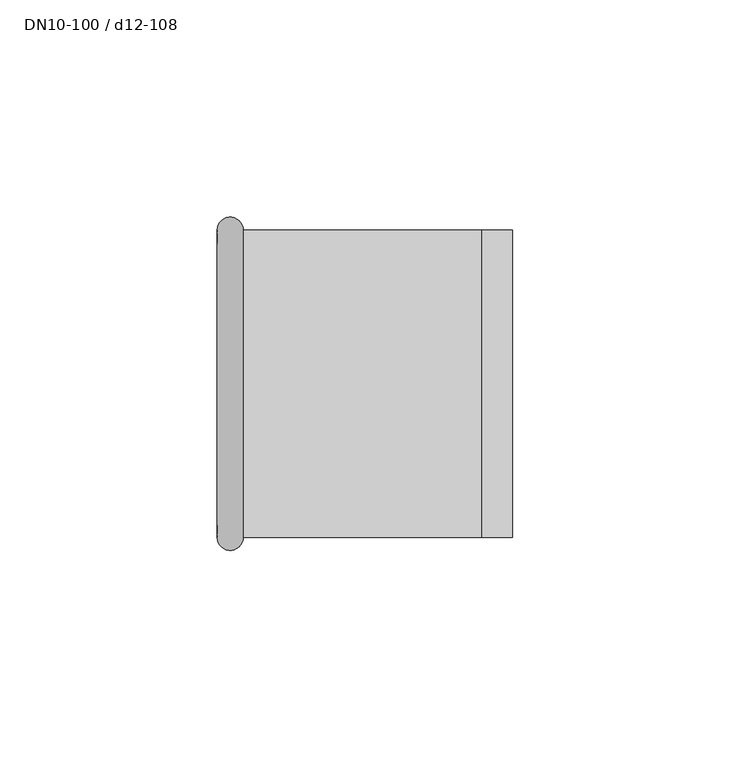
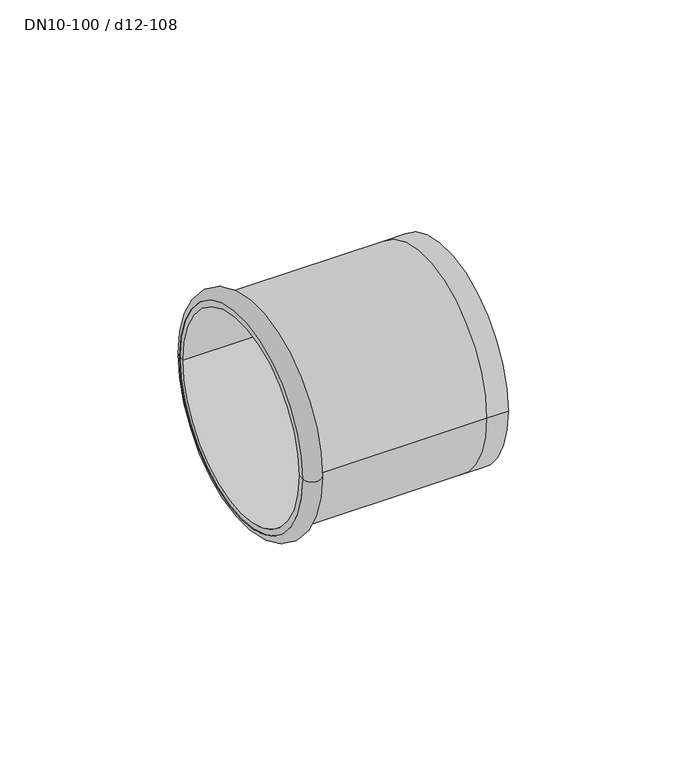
"""IFC4 building model written with IfcOpenShell, lengths in millimetres: pipe fitting geometry, NLRS_50_PIF_UN_Mapress koper kap_geb : DN10-100 / d12-108."""

from ifc_helpers import new_model, si_unit, point, frame, origin, place, context, project, spatial, polyline, circle_curve, ellipse_curve, trimmed, source, transform, mapped, element, save
from ifc_brep_helpers import plane_surface, cylinder_surface, revolved_surface, advanced_brep


def dn10_100_d12_108_199a5dac(model_context):
    return source(origin(), model_context, "Body", "AdvancedBrep", [
        advanced_brep(
        [(-60.8, 35.35, 0.0), (-60.8, -35.35, 0.0), (-54.8, -35.35, 0.0), (-54.8, 35.35, 0.0)],
        [
            (0, 1, circle_curve(frame((-60.8, 0.0, 0.0), z_axis=(-1.0, 0.0, 0.0), x_axis=(0.0, -1.0, 0.0)), 35.35)),
            (1, 2),
            (2, 3, circle_curve(frame((-54.8, 0.0, 0.0), z_axis=(1.0, 0.0, 0.0), x_axis=(0.0, -1.0, 0.0)), 35.35)),
            (3, 0),
            (1, 0, circle_curve(frame((-60.8, 0.0, 0.0), z_axis=(-1.0, 0.0, 0.0), x_axis=(0.0, -1.0, 0.0)), 35.35)),
            (3, 2, circle_curve(frame((-54.8, 0.0, 0.0), z_axis=(1.0, 0.0, 0.0), x_axis=(0.0, -1.0, 0.0)), 35.35)),
            (2, 1, circle_curve(frame((-57.8, -35.35, 0.0), z_axis=(0.0, 0.0, -1.0), x_axis=(-1.0, 0.0, 0.0)), 3.0)),
            (0, 3, circle_curve(frame((-57.8, 35.35, 0.0), z_axis=(0.0, 0.0, -1.0), x_axis=(-1.0, 0.0, 0.0)), 3.0)),
        ],
        [
            revolved_surface(polyline([(-54.800000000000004, -35.35, 0.0), (-60.800000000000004, -35.35, 0.0)]), (16.0779068, 0.0, 0.0), (1.0, 0.0, 0.0)),
            revolved_surface(trimmed(ellipse_curve(frame((-57.8, -35.35, 0.0), z_axis=(0.0, 0.0, 1.0), x_axis=(-1.0, 0.0, 0.0)), 3.0, 3.0), [point((-60.8, -35.35, 0.0))], [point((-54.8, -35.35, 0.0))], True, "CARTESIAN"), (16.0779068, 0.0, 0.0), (1.0, 0.0, 0.0)),
        ],
        [
            (0, [[1, 2, 3, 4]]),
            (0, [[5, -4, 6, -2]]),
            (1, [[-3, 7, -1, 8]]),
            (1, [[-6, -8, -5, -7]]),
        ],
    ),
        advanced_brep(
        [(-60.8, 33.35, 0.0), (-60.8, -33.35, 0.0), (5.2, -33.35, 0.0), (5.2, 33.35, 0.0), (0.0, 35.35, 0.0), (0.0, -35.35, 0.0), (-60.8, -35.35, 0.0), (-60.8, 35.35, 0.0), (7.2, 35.35, 0.0), (7.2, -35.35, 0.0), (7.2, 0.0, 0.0), (5.2, 0.0, 0.0)],
        [
            (0, 1, circle_curve(frame((-60.8, 0.0, 0.0), z_axis=(-1.0, 0.0, 0.0), x_axis=(0.0, -1.0, 0.0)), 33.35)),
            (1, 2),
            (2, 3, circle_curve(frame((5.2, 0.0, 0.0), z_axis=(1.0, 0.0, 0.0), x_axis=(0.0, -1.0, 0.0)), 33.35)),
            (3, 0),
            (1, 0, circle_curve(frame((-60.8, 0.0, 0.0), z_axis=(-1.0, 0.0, 0.0), x_axis=(0.0, -1.0, 0.0)), 33.35)),
            (3, 2, circle_curve(frame((5.2, 0.0, 0.0), z_axis=(1.0, 0.0, 0.0), x_axis=(0.0, -1.0, 0.0)), 33.35)),
            (4, 5, circle_curve(frame((0.0, 0.0, 0.0), z_axis=(-1.0, 0.0, 0.0), x_axis=(0.0, -1.0, 0.0)), 35.35)),
            (5, 6),
            (6, 7, circle_curve(frame((-60.8, 0.0, 0.0), z_axis=(1.0, 0.0, 0.0), x_axis=(0.0, -1.0, 0.0)), 35.35)),
            (7, 4),
            (5, 4, circle_curve(frame((0.0, 0.0, 0.0), z_axis=(-1.0, 0.0, 0.0), x_axis=(0.0, -1.0, 0.0)), 35.35)),
            (7, 6, circle_curve(frame((-60.8, 0.0, 0.0), z_axis=(1.0, 0.0, 0.0), x_axis=(0.0, -1.0, 0.0)), 35.35)),
            (6, 1),
            (0, 7),
            (8, 9, circle_curve(frame((7.2, 0.0, 0.0), z_axis=(-1.0, 0.0, 0.0), x_axis=(0.0, -1.0, 0.0)), 35.35)),
            (9, 5),
            (4, 8),
            (9, 8, circle_curve(frame((7.2, 0.0, 0.0), z_axis=(-1.0, 0.0, 0.0), x_axis=(0.0, -1.0, 0.0)), 35.35)),
            (10, 9),
            (8, 10),
            (2, 11),
            (11, 3),
        ],
        [
            revolved_surface(polyline([(5.2, -33.35, 0.0), (-60.8, -33.35, 0.0)]), (0.0, 0.0, 0.0), (1.0, 0.0, 0.0)),
            cylinder_surface(frame((0.0, 0.0, 0.0), z_axis=(1.0, 0.0, 0.0), x_axis=(0.0, -1.0, 0.0)), 35.35),
            plane_surface(frame((-60.8, 0.0, 0.0), z_axis=(-1.0, 0.0, 0.0), x_axis=(0.0, -1.0, 0.0))),
            plane_surface(frame((7.2, 0.0, 0.0), z_axis=(1.0, 0.0, 0.0), x_axis=(0.0, -1.0, 0.0))),
            plane_surface(frame((5.2, 0.0, 0.0), z_axis=(-1.0, 0.0, 0.0), x_axis=(0.0, -1.0, 0.0))),
        ],
        [
            (0, [[1, 2, 3, 4]]),
            (0, [[5, -4, 6, -2]]),
            (1, [[7, 8, 9, 10]]),
            (1, [[11, -10, 12, -8]]),
            (2, [[-9, 13, -1, 14]]),
            (2, [[-12, -14, -5, -13]]),
            (1, [[15, 16, -7, 17]]),
            (1, [[18, -17, -11, -16]]),
            (3, [[19, -15, 20]]),
            (3, [[-20, -18, -19]]),
            (4, [[-3, 21, 22]]),
            (4, [[-6, -22, -21]]),
        ],
    ),
    ])


if __name__ == "__main__":
    model = new_model("IFC4")
    model_context = context("Model", 3, world=origin())
    ifc_project = project(units=[si_unit("LENGTHUNIT", "METRE", prefix="MILLI")], contexts=[model_context])
    site = spatial("IfcSite", under=ifc_project)
    building = spatial("IfcBuilding", under=site)
    placement = place(None, origin())
    dn10_100_d12_108_shape = dn10_100_d12_108_199a5dac(model_context)
    element("IfcPipeFitting", 1, ObjectType="NLRS_50_PIF_UN_Mapress koper kap_geb : DN10-100 / d12-108", at=placement, inside=building, context=model_context, shape_type="MappedRepresentation", body=[
        mapped(dn10_100_d12_108_shape, transform((0.0, 0.0, 0.0), x_axis=(1.0, 0.0, 0.0), y_axis=(0.0, 1.0, 0.0), z_axis=(0.0, 0.0, 1.0))),
    ])
    save(model, "model.ifc")
